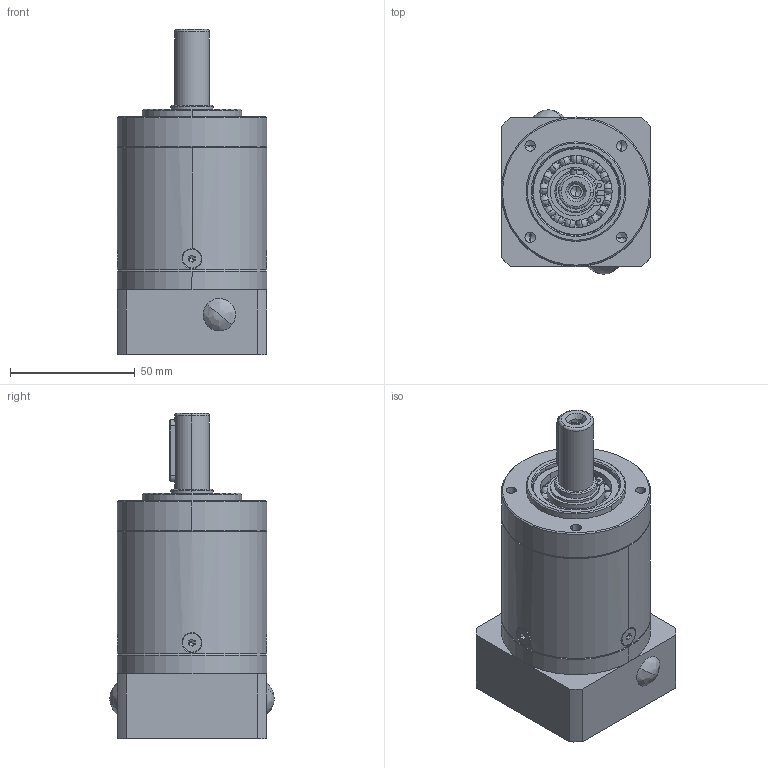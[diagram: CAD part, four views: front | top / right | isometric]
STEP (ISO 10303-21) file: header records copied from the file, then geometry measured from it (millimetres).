
FILE_DESCRIPTION (( 'STEP AP214' ), '1' );
FILE_NAME ('PL60L2-50-14-M5.STEP', '2020-09-11T05:11:34', ( '微软用户' ), ( '微软中国' ), 'SwSTEP 2.0', 'SolidWorks 2014', '' );
FILE_SCHEMA (( 'AUTOMOTIVE_DESIGN' ));
Length unit declared in the file: millimetre
Products named in the file (82): 路燭菜え18X49.5; 俴陎殤8A; Deep groove ball bearings GB_Rolling bearings 6003 GB 276-94; 俴陎粣7X13.5; Circlips for shaft--Type A large GB_GB_CONNECTING_PIECE_RING_RRA 20; Circlips for hole--Type B GB_GB_CONNECTING_PIECE_RINGS_CHB 35; 俴陎謫5A; Deep groove ball bearings GB_Rolling bearings 61904 GB 276-94; O形密封圈2X35; 幗渀粣創7X10; 珨撰怮栠謫8A; 两级内齿圈; 俴陎謫菜え7.2X13.5; 薊粣ん14; PL60L2-50-14-M5; 输入端盖; Circlips for shaft--Type A large GB_GB_CONNECTING_PIECE_RING_RRA 17; 怀堤傷裔PL; 怀堤粣5A; Hexagon socket head cap screws GB_GB_FASTENER_SCREWS_HSHCS M5X16-N; Circlips for hole--Type B GB_GB_CONNECTING_PIECE_RINGS_CHB 37; 俴陎謫8A; 黑裔9; Plain parallel keys_GB_CONNECTING_PIECE_KEYS_CSK 5X25; 俴陎謫菜え7.2X17; Hexagon socket countersunk head screws GB_GB_FASTENER_SCREWS_HSCHS M4X10-N; 笢潔怮栠謫5A
Assembly tree (55 placements, depth 2):
  路燭菜え18X49.5
  路燭菜え18X49.5
  Deep groove ball bearings GB_Rolling bearings 6003 GB 276-94
  俴陎粣7X13.5
  Circlips for shaft--Type A large GB_GB_CONNECTING_PIECE_RING_RRA 20
Bounding box: 60 x 66 x 130.5 mm (x, y, z)
Volume: 235056.8 mm3; surface area: 122082.9 mm2
Topology: 55 solids, 55 shells, 1169 faces, 3482 edges, 2120 vertices
Faces by surface type: cylinder 425, bspline 334, plane 280, cone 130
Entity records: 35622 total; most frequent: CARTESIAN_POINT 14269, ORIENTED_EDGE 4438, DIRECTION 3768, EDGE_CURVE 2219, AXIS2_PLACEMENT_3D 1603, VERTEX_POINT 1456, CIRCLE 984, EDGE_LOOP 917
